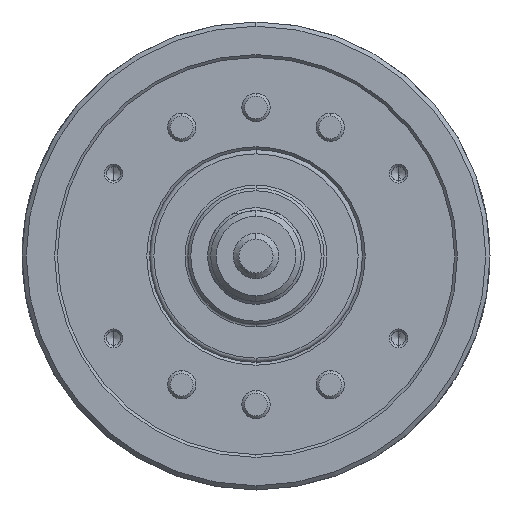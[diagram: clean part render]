
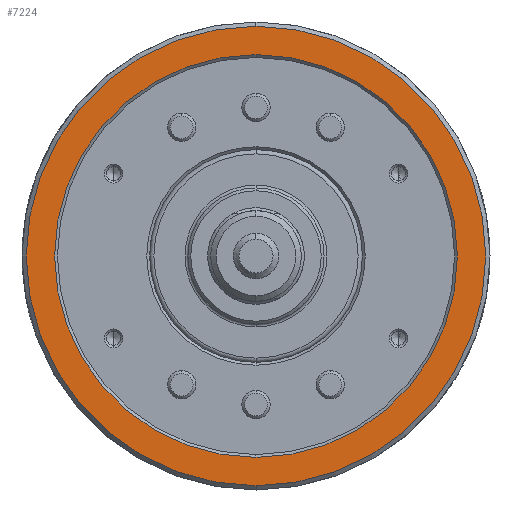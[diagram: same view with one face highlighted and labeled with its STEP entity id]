
A CAD part, left-side view. The second image highlights one B-rep face of the part: STEP entity #7224.
In plain terms, the highlighted planar face has unit normal (-1, 0, 0) as drawn and (0, 0, -1) by its records, which use the part's own axes.
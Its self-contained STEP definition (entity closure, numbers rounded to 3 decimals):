
#17 = CARTESIAN_POINT ( 'NONE',  ( 0., 0., -74. ) ) ;
#1122 = VERTEX_POINT ( 'NONE', #34085 ) ;
#1988 = CIRCLE ( 'NONE', #15963, 81. ) ;
#2024 = ORIENTED_EDGE ( 'NONE', *, *, #6162, .F. ) ;
#2564 = EDGE_LOOP ( 'NONE', ( #38591, #33891 ) ) ;
#2601 = DIRECTION ( 'NONE',  ( 1., 0., 0. ) ) ;
#3221 = DIRECTION ( 'NONE',  ( 1., 0., 0. ) ) ;
#3985 = DIRECTION ( 'NONE',  ( 0., 0., 1. ) ) ;
#4873 = AXIS2_PLACEMENT_3D ( 'NONE', #22560, #3985, #25656 ) ;
#6162 = EDGE_CURVE ( 'NONE', #35972, #25276, #7198, .T. ) ;
#7198 = CIRCLE ( 'NONE', #4873, 81. ) ;
#7224 = ADVANCED_FACE ( 'NONE', ( #7597, #31280 ), #39624, .F. ) ;
#7597 = FACE_OUTER_BOUND ( 'NONE', #37855, .T. ) ;
#7910 = EDGE_CURVE ( 'NONE', #35503, #1122, #11456, .T. ) ;
#8728 = DIRECTION ( 'NONE',  ( 0., 0., 1. ) ) ;
#9044 = DIRECTION ( 'NONE',  ( 0., 0., 1. ) ) ;
#10420 = AXIS2_PLACEMENT_3D ( 'NONE', #27607, #9044, #30674 ) ;
#10422 = EDGE_CURVE ( 'NONE', #25276, #35972, #1988, .T. ) ;
#11456 = CIRCLE ( 'NONE', #10420, 71. ) ;
#14853 = AXIS2_PLACEMENT_3D ( 'NONE', #36556, #8728, #2601 ) ;
#15963 = AXIS2_PLACEMENT_3D ( 'NONE', #17, #21828, #3221 ) ;
#18143 = CARTESIAN_POINT ( 'NONE',  ( 0., 0., -74. ) ) ;
#20376 = CARTESIAN_POINT ( 'NONE',  ( 81., 0., -74. ) ) ;
#21236 = DIRECTION ( 'NONE',  ( 1., 0., 0. ) ) ;
#21828 = DIRECTION ( 'NONE',  ( 0., 0., 1. ) ) ;
#22560 = CARTESIAN_POINT ( 'NONE',  ( 0., 0., -74. ) ) ;
#25276 = VERTEX_POINT ( 'NONE', #32885 ) ;
#25656 = DIRECTION ( 'NONE',  ( 1., 0., 0. ) ) ;
#27607 = CARTESIAN_POINT ( 'NONE',  ( 0., 0., -74. ) ) ;
#29115 = EDGE_CURVE ( 'NONE', #1122, #35503, #34984, .T. ) ;
#30674 = DIRECTION ( 'NONE',  ( 1., 0., 0. ) ) ;
#31280 = FACE_BOUND ( 'NONE', #2564, .T. ) ;
#32885 = CARTESIAN_POINT ( 'NONE',  ( -81., 0., -74. ) ) ;
#33891 = ORIENTED_EDGE ( 'NONE', *, *, #29115, .T. ) ;
#34085 = CARTESIAN_POINT ( 'NONE',  ( 71., 0., -74. ) ) ;
#34984 = CIRCLE ( 'NONE', #35370, 71. ) ;
#35370 = AXIS2_PLACEMENT_3D ( 'NONE', #18143, #39642, #21236 ) ;
#35503 = VERTEX_POINT ( 'NONE', #35877 ) ;
#35877 = CARTESIAN_POINT ( 'NONE',  ( -71., 0., -74. ) ) ;
#35972 = VERTEX_POINT ( 'NONE', #20376 ) ;
#36556 = CARTESIAN_POINT ( 'NONE',  ( 0., -71., -74. ) ) ;
#37855 = EDGE_LOOP ( 'NONE', ( #2024, #39427 ) ) ;
#38591 = ORIENTED_EDGE ( 'NONE', *, *, #7910, .T. ) ;
#39427 = ORIENTED_EDGE ( 'NONE', *, *, #10422, .F. ) ;
#39624 = PLANE ( 'NONE',  #14853 ) ;
#39642 = DIRECTION ( 'NONE',  ( 0., 0., 1. ) ) ;
